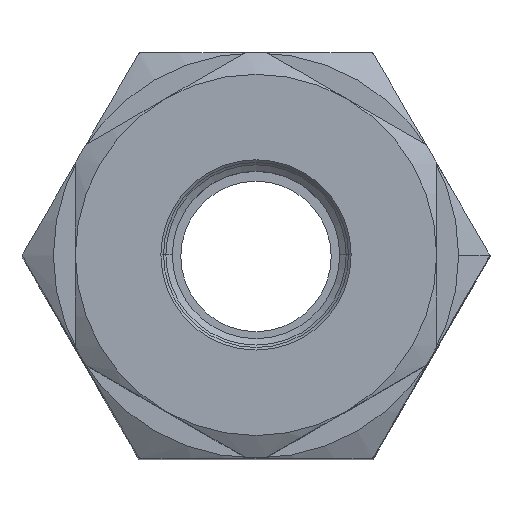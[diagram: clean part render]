
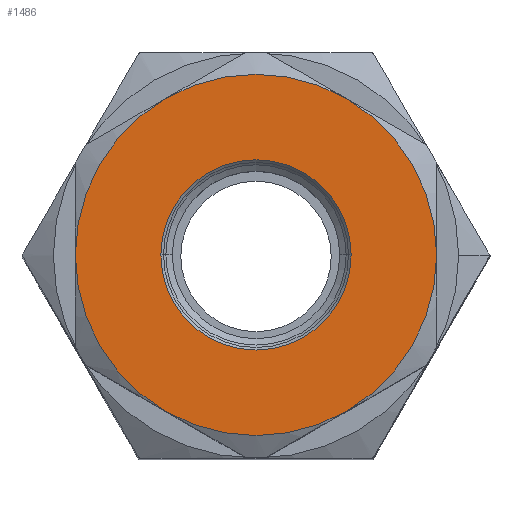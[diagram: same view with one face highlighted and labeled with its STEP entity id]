
A CAD part, top view. The second image highlights one B-rep face of the part: STEP entity #1486.
In plain terms, the highlighted planar face has unit normal (0, 0, 1).
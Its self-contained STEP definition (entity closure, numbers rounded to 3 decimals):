
#72 = EDGE_CURVE ( 'NONE', #8677, #2349, #11358, .T. ) ;
#186 = ORIENTED_EDGE ( 'NONE', *, *, #15950, .T. ) ;
#466 = DIRECTION ( 'NONE',  ( 1., 0., 0. ) ) ;
#492 = CARTESIAN_POINT ( 'NONE',  ( 0., 0., 85.25 ) ) ;
#593 = CARTESIAN_POINT ( 'NONE',  ( -10.8, 0., 85.25 ) ) ;
#1074 = VERTEX_POINT ( 'NONE', #593 ) ;
#1343 = CIRCLE ( 'NONE', #15360, 20.5 ) ;
#1486 = ADVANCED_FACE ( 'NONE', ( #10590, #6787 ), #3854, .T. ) ;
#1533 = ORIENTED_EDGE ( 'NONE', *, *, #11650, .T. ) ;
#1924 = CIRCLE ( 'NONE', #7575, 20.5 ) ;
#1957 = AXIS2_PLACEMENT_3D ( 'NONE', #492, #11238, #466 ) ;
#2349 = VERTEX_POINT ( 'NONE', #7696 ) ;
#3113 = CARTESIAN_POINT ( 'NONE',  ( 10.25, -17.754, 85.25 ) ) ;
#3412 = DIRECTION ( 'NONE',  ( 0., 0., 1. ) ) ;
#3543 = DIRECTION ( 'NONE',  ( 0., 0., 1. ) ) ;
#3854 = PLANE ( 'NONE',  #12190 ) ;
#3985 = CARTESIAN_POINT ( 'NONE',  ( -20.5, 0., 85.25 ) ) ;
#4155 = ORIENTED_EDGE ( 'NONE', *, *, #17237, .T. ) ;
#4269 = CARTESIAN_POINT ( 'NONE',  ( 0., 0., 85.25 ) ) ;
#4286 = DIRECTION ( 'NONE',  ( 0., 0., 1. ) ) ;
#4431 = CARTESIAN_POINT ( 'NONE',  ( 10.8, 0., 85.25 ) ) ;
#4629 = VERTEX_POINT ( 'NONE', #4431 ) ;
#4984 = CARTESIAN_POINT ( 'NONE',  ( 0., 0., 85.25 ) ) ;
#5227 = AXIS2_PLACEMENT_3D ( 'NONE', #15923, #7334, #17435 ) ;
#5778 = DIRECTION ( 'NONE',  ( 1., 0., 0. ) ) ;
#6471 = DIRECTION ( 'NONE',  ( 1., 0., 0. ) ) ;
#6787 = FACE_OUTER_BOUND ( 'NONE', #7611, .T. ) ;
#6798 = ORIENTED_EDGE ( 'NONE', *, *, #13055, .T. ) ;
#7334 = DIRECTION ( 'NONE',  ( 0., 0., -1. ) ) ;
#7575 = AXIS2_PLACEMENT_3D ( 'NONE', #16902, #8288, #18398 ) ;
#7611 = EDGE_LOOP ( 'NONE', ( #14014, #8960, #16081, #4155, #6798, #1533 ) ) ;
#7612 = CIRCLE ( 'NONE', #18895, 10.8 ) ;
#7625 = ORIENTED_EDGE ( 'NONE', *, *, #13739, .T. ) ;
#7696 = CARTESIAN_POINT ( 'NONE',  ( 10.25, 17.754, 85.25 ) ) ;
#7924 = VERTEX_POINT ( 'NONE', #13645 ) ;
#8288 = DIRECTION ( 'NONE',  ( 0., 0., 1. ) ) ;
#8677 = VERTEX_POINT ( 'NONE', #10325 ) ;
#8960 = ORIENTED_EDGE ( 'NONE', *, *, #10040, .T. ) ;
#9013 = VERTEX_POINT ( 'NONE', #3985 ) ;
#9919 = AXIS2_PLACEMENT_3D ( 'NONE', #12127, #3412, #13586 ) ;
#10040 = EDGE_CURVE ( 'NONE', #2349, #7924, #13807, .T. ) ;
#10325 = CARTESIAN_POINT ( 'NONE',  ( 20.5, 0., 85.25 ) ) ;
#10590 = FACE_BOUND ( 'NONE', #13136, .T. ) ;
#10664 = VERTEX_POINT ( 'NONE', #14996 ) ;
#11238 = DIRECTION ( 'NONE',  ( 0., 0., 1. ) ) ;
#11358 = CIRCLE ( 'NONE', #1957, 20.5 ) ;
#11650 = EDGE_CURVE ( 'NONE', #14466, #8677, #1343, .T. ) ;
#12127 = CARTESIAN_POINT ( 'NONE',  ( 0., 0., 85.25 ) ) ;
#12185 = CARTESIAN_POINT ( 'NONE',  ( 0., 0., 85.25 ) ) ;
#12190 = AXIS2_PLACEMENT_3D ( 'NONE', #12185, #17618, #17526 ) ;
#12234 = CARTESIAN_POINT ( 'NONE',  ( 0., 0., 85.25 ) ) ;
#12937 = CARTESIAN_POINT ( 'NONE',  ( 0., 0., 85.25 ) ) ;
#13055 = EDGE_CURVE ( 'NONE', #10664, #14466, #14478, .T. ) ;
#13136 = EDGE_LOOP ( 'NONE', ( #7625, #186 ) ) ;
#13323 = CIRCLE ( 'NONE', #5227, 10.8 ) ;
#13552 = CIRCLE ( 'NONE', #9919, 20.5 ) ;
#13560 = EDGE_CURVE ( 'NONE', #7924, #9013, #1924, .T. ) ;
#13586 = DIRECTION ( 'NONE',  ( 1., 0., 0. ) ) ;
#13645 = CARTESIAN_POINT ( 'NONE',  ( -10.25, 17.754, 85.25 ) ) ;
#13700 = DIRECTION ( 'NONE',  ( 1., 0., 0. ) ) ;
#13739 = EDGE_CURVE ( 'NONE', #4629, #1074, #13323, .T. ) ;
#13807 = CIRCLE ( 'NONE', #16302, 20.5 ) ;
#14014 = ORIENTED_EDGE ( 'NONE', *, *, #72, .T. ) ;
#14344 = DIRECTION ( 'NONE',  ( 0., 0., -1. ) ) ;
#14365 = DIRECTION ( 'NONE',  ( 1., 0., 0. ) ) ;
#14466 = VERTEX_POINT ( 'NONE', #3113 ) ;
#14478 = CIRCLE ( 'NONE', #17359, 20.5 ) ;
#14996 = CARTESIAN_POINT ( 'NONE',  ( -10.25, -17.754, 85.25 ) ) ;
#15069 = DIRECTION ( 'NONE',  ( 0., 0., 1. ) ) ;
#15360 = AXIS2_PLACEMENT_3D ( 'NONE', #12234, #3543, #13700 ) ;
#15923 = CARTESIAN_POINT ( 'NONE',  ( 0., 0., 85.25 ) ) ;
#15950 = EDGE_CURVE ( 'NONE', #1074, #4629, #7612, .T. ) ;
#16081 = ORIENTED_EDGE ( 'NONE', *, *, #13560, .T. ) ;
#16302 = AXIS2_PLACEMENT_3D ( 'NONE', #12937, #4286, #14365 ) ;
#16902 = CARTESIAN_POINT ( 'NONE',  ( 0., 0., 85.25 ) ) ;
#17237 = EDGE_CURVE ( 'NONE', #9013, #10664, #13552, .T. ) ;
#17359 = AXIS2_PLACEMENT_3D ( 'NONE', #4984, #15069, #6471 ) ;
#17435 = DIRECTION ( 'NONE',  ( 1., 0., 0. ) ) ;
#17526 = DIRECTION ( 'NONE',  ( 1., 0., 0. ) ) ;
#17618 = DIRECTION ( 'NONE',  ( 0., 0., 1. ) ) ;
#18398 = DIRECTION ( 'NONE',  ( 1., 0., 0. ) ) ;
#18895 = AXIS2_PLACEMENT_3D ( 'NONE', #4269, #14344, #5778 ) ;
